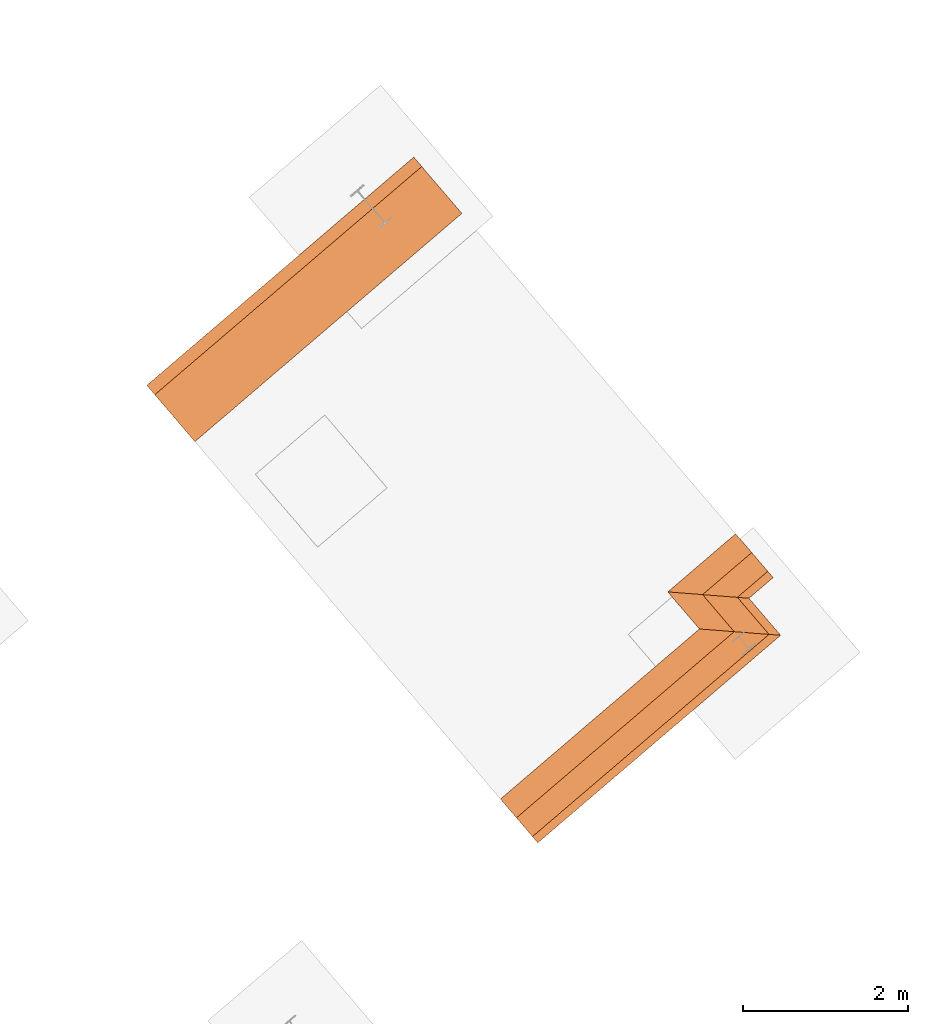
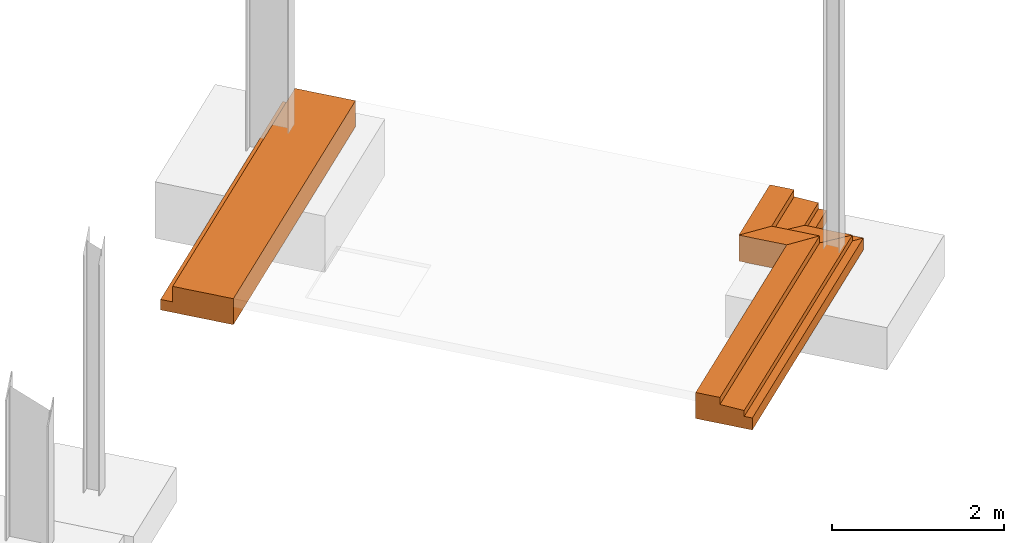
# One storey, part 41 of 41: 4 proxies.
"""IFC2X3 building model written with IfcOpenShell, lengths in millimetres."""

from ifc_helpers import new_model, entity, si_unit, converted_unit, derived_unit, direction, frame, origin, place, context, subcontext, project, spatial, polyline, outline, extrude, faceted_brep, type_object, element, save


model = new_model("IFC2X3")

# Units and contexts
model_context = context("Model", 3, precision=0.01, world=origin(), true_north=direction((6.123031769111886e-17, 1.0)))
body_context = subcontext(model_context, "Body", "Model", "MODEL_VIEW")
ifc_project = project(units=[si_unit("LENGTHUNIT", "METRE", prefix="MILLI"), si_unit("AREAUNIT", "SQUARE_METRE"), si_unit("VOLUMEUNIT", "CUBIC_METRE"), converted_unit("PLANEANGLEUNIT", "DEGREE", entity("IfcRatioMeasure", 0.017453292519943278), si_unit("PLANEANGLEUNIT", "RADIAN"), dimensions=[0, 0, 0, 0, 0, 0, 0]), si_unit("MASSUNIT", "GRAM", prefix="KILO"), derived_unit("MASSDENSITYUNIT", [(si_unit("MASSUNIT", "GRAM", prefix="KILO"), 1), (si_unit("LENGTHUNIT", "METRE"), -3)]), derived_unit("MOMENTOFINERTIAUNIT", [(si_unit("LENGTHUNIT", "METRE"), 4)]), si_unit("TIMEUNIT", "SECOND"), si_unit("FREQUENCYUNIT", "HERTZ"), si_unit("THERMODYNAMICTEMPERATUREUNIT", "DEGREE_CELSIUS"), derived_unit("THERMALTRANSMITTANCEUNIT", [(si_unit("MASSUNIT", "GRAM", prefix="KILO"), 1), (si_unit("THERMODYNAMICTEMPERATUREUNIT", "KELVIN"), -1), (si_unit("TIMEUNIT", "SECOND"), -3)]), derived_unit("VOLUMETRICFLOWRATEUNIT", [(si_unit("LENGTHUNIT", "METRE"), 3), (si_unit("TIMEUNIT", "SECOND"), -1)]), derived_unit("MASSFLOWRATEUNIT", [(si_unit("MASSUNIT", "GRAM", prefix="KILO"), 1), (si_unit("TIMEUNIT", "SECOND"), -1)]), derived_unit("ROTATIONALFREQUENCYUNIT", [(si_unit("TIMEUNIT", "SECOND"), -1)]), si_unit("ELECTRICCURRENTUNIT", "AMPERE"), si_unit("ELECTRICVOLTAGEUNIT", "VOLT"), si_unit("POWERUNIT", "WATT"), si_unit("FORCEUNIT", "NEWTON", prefix="KILO"), si_unit("ILLUMINANCEUNIT", "LUX"), si_unit("LUMINOUSFLUXUNIT", "LUMEN"), si_unit("LUMINOUSINTENSITYUNIT", "CANDELA"), derived_unit("USERDEFINED", [(si_unit("MASSUNIT", "GRAM", prefix="KILO"), -1), (si_unit("LENGTHUNIT", "METRE"), -2), (si_unit("TIMEUNIT", "SECOND"), 3), (si_unit("LUMINOUSFLUXUNIT", "LUMEN"), 1)]), derived_unit("SOUNDPOWERUNIT", [(si_unit("MASSUNIT", "GRAM", prefix="KILO"), 1), (si_unit("LENGTHUNIT", "METRE"), 2), (si_unit("TIMEUNIT", "SECOND"), -3)]), derived_unit("LINEARVELOCITYUNIT", [(si_unit("LENGTHUNIT", "METRE"), 1), (si_unit("TIMEUNIT", "SECOND"), -1)]), si_unit("PRESSUREUNIT", "PASCAL"), derived_unit("USERDEFINED", [(si_unit("LENGTHUNIT", "METRE"), -2), (si_unit("MASSUNIT", "GRAM", prefix="KILO"), 1), (si_unit("TIMEUNIT", "SECOND"), -2)]), derived_unit("LINEARFORCEUNIT", [(si_unit("MASSUNIT", "GRAM", prefix="KILO"), 1), (si_unit("LENGTHUNIT", "METRE"), 1), (si_unit("TIMEUNIT", "SECOND"), -2), (si_unit("LENGTHUNIT", "METRE"), -1)]), derived_unit("PLANARFORCEUNIT", [(si_unit("MASSUNIT", "GRAM", prefix="KILO"), 1), (si_unit("LENGTHUNIT", "METRE"), 1), (si_unit("TIMEUNIT", "SECOND"), -2), (si_unit("LENGTHUNIT", "METRE"), -2)])], contexts=[model_context])

# Site, building, storey
site_placement = place(None, frame((962.4174930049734, -6014.433753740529, 0.0), z_axis=(0.0, 0.0, 1.0), x_axis=(0.7601792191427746, 0.649713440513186, 0.0)))
site = spatial("IfcSite", under=ifc_project, at=site_placement, Name="Default", CompositionType="ELEMENT")
building_placement = place(site_placement, origin())
building = spatial("IfcBuilding", under=site, at=building_placement, CompositionType="ELEMENT")
storey_placement = place(building_placement, origin())
storey = spatial("IfcBuildingStorey", under=building, at=storey_placement, Name="Datum", CompositionType="ELEMENT", Elevation=0.0)

# Proxies
building_element_proxy_type_1 = type_object("IfcBuildingElementProxyType", Name="Slab Edge:Thickening Edge", PredefinedType="NOTDEFINED")
proxy_1_placement = place(building_placement, frame((66222.46020470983, -40324.92808213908, -370.0)))
element("IfcBuildingElementProxy", 1, at=proxy_1_placement, inside=storey, type_object=building_element_proxy_type_1, Name="Slab Edge:Thickening Edge", ObjectType="Slab Edge:Thickening Edge", context=body_context, shape_type="Brep", body=[
    faceted_brep([(0.0, 0.0, 0.0), (0.0, 0.0, 170.0), (0.0, 100.0, 170.0), (0.0, 100.0, 254.27766621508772), (0.0, 400.0, 270.0), (0.0, 400.0, 370.0), (0.0, 700.0, 370.0), (0.0, 700.0, 250.0), (0.0, 700.0, 0.0), (3882.0, 0.0, 0.0), (3182.0, 700.0, 0.0), (3182.0, 700.0, 370.0), (3482.0, 400.0, 370.0), (3482.0, 400.0, 270.0), (3782.0, 100.0, 254.27766621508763), (3782.0, 100.0, 170.0), (3882.0, 0.0, 170.0)], [[[0, 1, 2, 3, 4, 5, 6, 7, 8]], [[9, 10, 11, 12, 13, 14, 15, 16]], [[1, 0, 9, 16]], [[2, 1, 16, 15]], [[3, 2, 15, 14]], [[4, 3, 14, 13]], [[5, 4, 13, 12]], [[6, 5, 12, 11]], [[8, 7, 6, 11, 10]], [[0, 8, 10, 9]]]),
])
building_element_proxy_type_2 = type_object("IfcBuildingElementProxyType", Name="Slab Edge:Thickening Edge", PredefinedType="NOTDEFINED")
proxy_2_placement = place(building_placement, frame((69404.46020470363, -40324.92808213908, -370.0)))
element("IfcBuildingElementProxy", 2, at=proxy_2_placement, inside=storey, type_object=building_element_proxy_type_2, Name="Slab Edge:Thickening Edge", ObjectType="Slab Edge:Thickening Edge", context=body_context, shape_type="Brep", body=[
    faceted_brep([(700.0, 0.0, 0.0), (700.0, 0.0, 170.0), (600.0, 100.0, 170.0), (600.0, 100.0, 254.27766621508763), (300.0, 400.0, 270.0), (300.0, 400.0, 370.0), (0.0, 700.0, 370.0), (0.0, 700.0, 250.0), (0.0, 700.0, 0.0), (700.0, 592.5000000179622, 170.0), (700.0, 592.5000000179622, 0.0), (0.0, 1292.5000000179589, 0.0), (0.0, 1292.5000000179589, 250.0), (0.0, 1292.5000000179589, 370.0), (300.0, 992.5000000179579, 370.0), (300.0, 992.5000000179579, 270.0), (600.0, 692.5000000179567, 254.27766621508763), (600.0, 692.5000000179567, 170.0)], [[[0, 1, 2, 3, 4, 5, 6, 7, 8]], [[9, 10, 11, 12, 13, 14, 15, 16, 17]], [[1, 0, 10, 9]], [[2, 1, 9, 17]], [[3, 2, 17, 16]], [[4, 3, 16, 15]], [[5, 4, 15, 14]], [[6, 5, 14, 13]], [[6, 13, 12, 11, 8, 7]], [[0, 8, 11, 10]]]),
])
building_element_proxy_type_3 = type_object("IfcBuildingElementProxyType", Name="Slab Edge:Thickening Edge", PredefinedType="NOTDEFINED")
proxy_3_placement = place(building_placement, frame((69404.46020470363, -39732.428082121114, -370.0)))
element("IfcBuildingElementProxy", 3, at=proxy_3_placement, inside=storey, type_object=building_element_proxy_type_3, Name="Slab Edge:Thickening Edge", ObjectType="Slab Edge:Thickening Edge", context=body_context, shape_type="Brep", body=[
    faceted_brep([(700.0, 0.0, 0.0), (700.0, 0.0, 170.0), (600.0, 100.0, 170.0), (600.0, 100.0, 254.27766621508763), (300.0, 400.0, 270.0), (300.0, 400.0, 370.0), (0.0, 700.0, 370.0), (0.0, 700.0, 250.0), (0.0, 700.0, 0.0), (1086.3912079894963, 0.0, 170.0), (1086.3912079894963, 0.0, 0.0), (1086.3912079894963, 700.0, 0.0), (1086.3912079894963, 700.0, 250.0), (1086.3912079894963, 700.0, 370.0), (1086.3912079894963, 400.0, 370.0), (1086.3912079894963, 400.0, 270.0), (1086.3912079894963, 100.0, 254.27766621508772), (1086.3912079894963, 100.0, 170.0)], [[[0, 1, 2, 3, 4, 5, 6, 7, 8]], [[9, 10, 11, 12, 13, 14, 15, 16, 17]], [[1, 0, 10, 9]], [[2, 1, 9, 17]], [[3, 2, 17, 16]], [[4, 3, 16, 15]], [[5, 4, 15, 14]], [[6, 5, 14, 13]], [[6, 13, 12, 11, 8, 7]], [[0, 8, 11, 10]]]),
])
building_element_proxy_type_4 = type_object("IfcBuildingElementProxyType", Name="Slab Edge:Thickening Edge 2", PredefinedType="NOTDEFINED")
proxy_4_placement = place(building_placement, origin())
element("IfcBuildingElementProxy", 4, at=proxy_4_placement, inside=storey, type_object=building_element_proxy_type_4, Name="Slab Edge:Thickening Edge 2", ObjectType="Slab Edge:Thickening Edge 2", context=body_context, shape_type="SweptSolid", body=[
    extrude(outline(polyline([(-184.2857142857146, -428.5714285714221), (-34.285714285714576, -428.5714285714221), (-34.285714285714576, -278.57142857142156), (185.71428571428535, -278.57142857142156), (185.71428571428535, 471.4285714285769), (65.7142857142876, 471.4285714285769), (-184.2857142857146, 471.4285714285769), (-184.2857142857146, -428.5714285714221)])), frame((66222.46020470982, -33439.09951069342, -185.71428571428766), z_axis=(1.0, 0.0, 0.0), x_axis=(0.0, 0.0, 1.0)), (0.0, 0.0, 1.0), 4268.391207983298),
])

save(model, "model.ifc")
